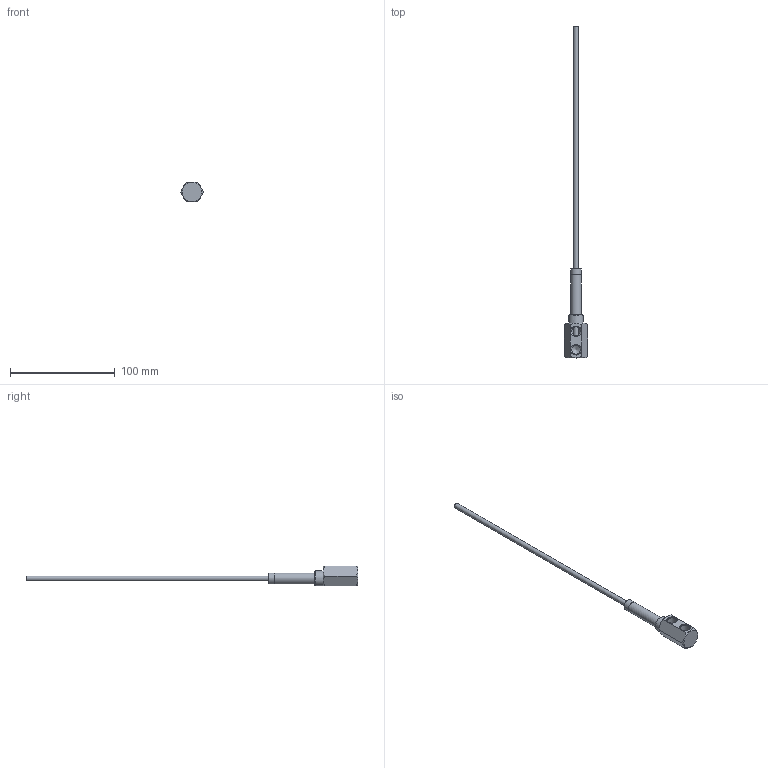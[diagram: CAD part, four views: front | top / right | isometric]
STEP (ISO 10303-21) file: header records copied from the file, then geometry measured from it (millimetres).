
FILE_DESCRIPTION(/* description */ (''),/* implementation_level */ '2;1');
FILE_NAME(/* name */ 'C:/Users/drich/Desktop/HF186N v1.step',/* time_stamp */ '2020-01-15T19:34:59-06:00',/* author */ (''),/* organization */ (''),/* preprocessor_version */ 'ST-DEVELOPER v18',/* originating_system */ 'Autodesk Translation Framework v8.12.0.6',/* authorisation */ '');
FILE_SCHEMA (('AUTOMOTIVE_DESIGN { 1 0 10303 214 3 1 1 }'));
Length unit declared in the file: inch
Products named in the file (4): HF186N; HF181H; SSPN18-2; HF187T-12
Assembly tree (3 placements, depth 2):
  HF186N
    HF181H
    SSPN18-2
    HF187T-12
Bounding box: 22 x 316.61 x 19.05 mm (x, y, z)
Volume: 12281.4 mm3; surface area: 15738.8 mm2
Topology: 3 solids, 3 shells, 47 faces, 118 edges, 81 vertices
Faces by surface type: plane 18, cone 13, cylinder 13, torus 3
Full cylindrical faces by diameter (mm): 4.242 x1, 4.75 x1, 5.474 x1, 6.243 x1, 6.401 x1, 6.833 x1, 8.707 x3, 10.262 x2, 10.312 x1, 14.275 x1
Entity records: 1617 total; most frequent: CARTESIAN_POINT 325, DIRECTION 276, ORIENTED_EDGE 234, AXIS2_PLACEMENT_3D 123, EDGE_CURVE 117, VERTEX_POINT 81, CIRCLE 67, EDGE_LOOP 60
